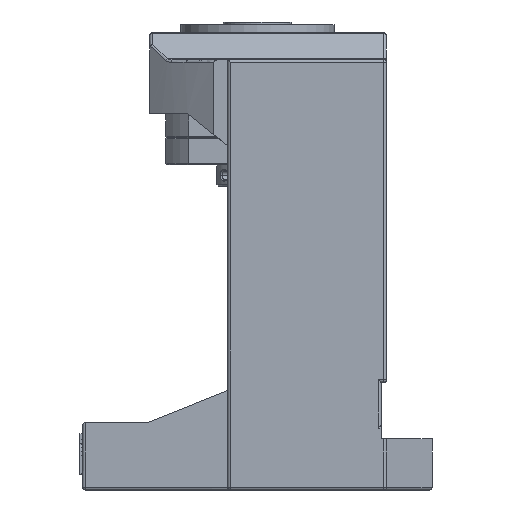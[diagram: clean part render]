
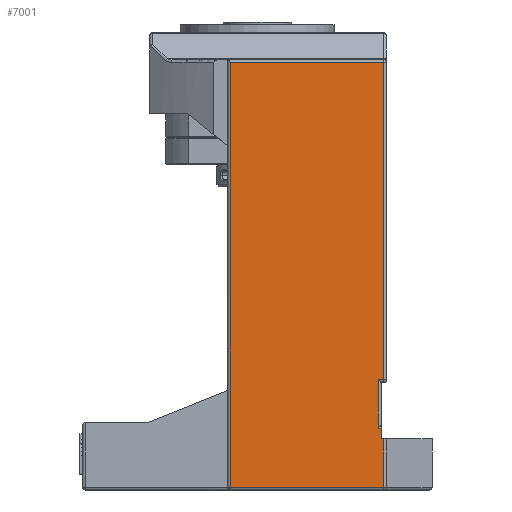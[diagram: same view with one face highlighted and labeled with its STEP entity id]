
A CAD part, left-side view. The second image highlights one B-rep face of the part: STEP entity #7001.
In plain terms, the highlighted planar face has unit normal (-1, 0, 0).
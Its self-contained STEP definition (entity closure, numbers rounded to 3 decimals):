
#1372=DIRECTION('',(0.,-1.,0.));
#1373=VECTOR('',#1372,1.);
#1374=CARTESIAN_POINT('',(-75.,-46.,19.));
#1375=LINE('',#1374,#1373);
#1376=DIRECTION('',(0.,0.,-1.));
#1377=VECTOR('',#1376,4.);
#1378=CARTESIAN_POINT('',(-75.,-46.,23.));
#1379=LINE('',#1378,#1377);
#1384=DIRECTION('',(0.,0.,1.));
#1385=VECTOR('',#1384,18.);
#1386=CARTESIAN_POINT('',(-75.,-47.,1.));
#1387=LINE('',#1386,#1385);
#1502=DIRECTION('',(0.,-1.,0.));
#1503=VECTOR('',#1502,57.);
#1504=CARTESIAN_POINT('',(-75.,10.,1.));
#1505=LINE('',#1504,#1503);
#1532=CARTESIAN_POINT('',(-75.,10.,159.));
#1534=DIRECTION('',(0.,0.,-1.));
#1535=VECTOR('',#1534,158.);
#1536=CARTESIAN_POINT('',(-75.,10.,159.));
#1537=LINE('',#1536,#1535);
#1542=DIRECTION('',(0.,1.,0.));
#1543=VECTOR('',#1542,57.);
#1544=CARTESIAN_POINT('',(-75.,-47.,159.));
#1545=LINE('',#1544,#1543);
#1681=DIRECTION('',(0.,-1.,0.));
#1682=VECTOR('',#1681,2.);
#1683=CARTESIAN_POINT('',(-75.,-45.,41.));
#1684=LINE('',#1683,#1682);
#1693=DIRECTION('',(0.,0.,1.));
#1694=VECTOR('',#1693,18.);
#1695=CARTESIAN_POINT('',(-75.,-45.,23.));
#1696=LINE('',#1695,#1694);
#1697=CARTESIAN_POINT('',(-75.,-45.,41.));
#1706=DIRECTION('',(0.,1.,0.));
#1707=VECTOR('',#1706,1.);
#1708=CARTESIAN_POINT('',(-75.,-46.,23.));
#1709=LINE('',#1708,#1707);
#1710=CARTESIAN_POINT('',(-75.,-45.,23.));
#1734=DIRECTION('',(0.,0.,1.));
#1735=VECTOR('',#1734,118.);
#1736=CARTESIAN_POINT('',(-75.,-47.,41.));
#1737=LINE('',#1736,#1735);
#4826=CARTESIAN_POINT('',(-75.,-47.,159.));
#4827=VERTEX_POINT('',#4826);
#4828=VERTEX_POINT('',#1532);
#4829=CARTESIAN_POINT('',(-75.,10.,1.));
#4830=VERTEX_POINT('',#4829);
#5108=CARTESIAN_POINT('',(-75.,-46.,19.));
#5109=VERTEX_POINT('',#5108);
#5110=CARTESIAN_POINT('',(-75.,-46.,23.));
#5111=VERTEX_POINT('',#5110);
#5137=VERTEX_POINT('',#1697);
#5138=CARTESIAN_POINT('',(-75.,-47.,41.));
#5139=VERTEX_POINT('',#5138);
#5140=VERTEX_POINT('',#1710);
#5141=CARTESIAN_POINT('',(-75.,-47.,19.));
#5142=VERTEX_POINT('',#5141);
#5143=CARTESIAN_POINT('',(-75.,-47.,1.));
#5144=VERTEX_POINT('',#5143);
#6976=CARTESIAN_POINT('',(-75.,72.5,25.));
#6977=DIRECTION('',(1.,0.,0.));
#6978=DIRECTION('',(0.,-1.,0.));
#6979=AXIS2_PLACEMENT_3D('',#6976,#6977,#6978);
#6980=PLANE('',#6979);
#6981=ORIENTED_EDGE('',*,*,#6428,.T.);
#6983=ORIENTED_EDGE('',*,*,#6982,.F.);
#6985=ORIENTED_EDGE('',*,*,#6984,.F.);
#6987=ORIENTED_EDGE('',*,*,#6986,.F.);
#6989=ORIENTED_EDGE('',*,*,#6988,.F.);
#6991=ORIENTED_EDGE('',*,*,#6990,.F.);
#6993=ORIENTED_EDGE('',*,*,#6992,.F.);
#6995=ORIENTED_EDGE('',*,*,#6994,.F.);
#6997=ORIENTED_EDGE('',*,*,#6996,.F.);
#6998=ORIENTED_EDGE('',*,*,#6949,.T.);
#6999=EDGE_LOOP('',(#6981,#6983,#6985,#6987,#6989,#6991,#6993,#6995,#6997,
#6998));
#7000=FACE_OUTER_BOUND('',#6999,.F.);
#6428=EDGE_CURVE('',#5109,#5142,#1375,.T.);
#6949=EDGE_CURVE('',#5111,#5109,#1379,.T.);
#6982=EDGE_CURVE('',#5144,#5142,#1387,.T.);
#6984=EDGE_CURVE('',#4830,#5144,#1505,.T.);
#6986=EDGE_CURVE('',#4828,#4830,#1537,.T.);
#6988=EDGE_CURVE('',#4827,#4828,#1545,.T.);
#6990=EDGE_CURVE('',#5139,#4827,#1737,.T.);
#6992=EDGE_CURVE('',#5137,#5139,#1684,.T.);
#6994=EDGE_CURVE('',#5140,#5137,#1696,.T.);
#6996=EDGE_CURVE('',#5111,#5140,#1709,.T.);
#7001=ADVANCED_FACE('',(#7000),#6980,.F.);
